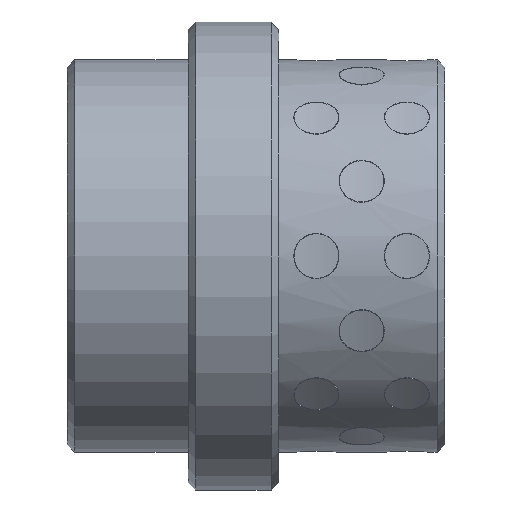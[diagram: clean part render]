
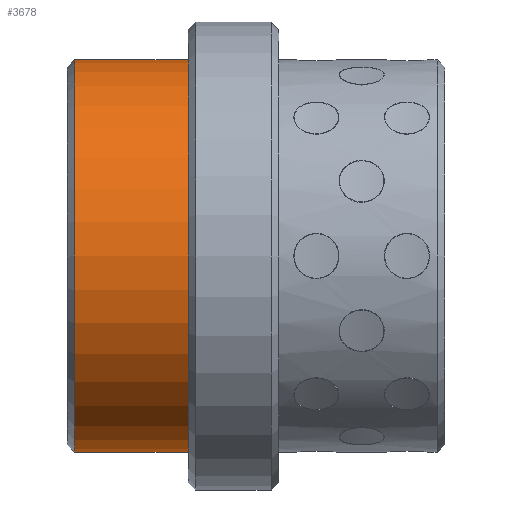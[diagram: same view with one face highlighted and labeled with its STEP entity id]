
A CAD part, front view. The second image highlights one B-rep face of the part: STEP entity #3678.
In plain terms, the highlighted cylindrical face has radius 13 mm (diameter 26 mm), a partial arc.
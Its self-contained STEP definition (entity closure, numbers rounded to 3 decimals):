
#2252=CARTESIAN_POINT('',(0.,0.,0.));
#2253=DIRECTION('',(1.,0.,0.));
#2254=DIRECTION('',(0.,0.,1.));
#2255=AXIS2_PLACEMENT_3D('',#2252,#2253,#2254);
#2272=CARTESIAN_POINT('',(-7.5,0.,0.));
#2273=DIRECTION('',(1.,0.,0.));
#2274=DIRECTION('',(0.,0.,1.));
#2275=AXIS2_PLACEMENT_3D('',#2272,#2273,#2274);
#2290=DIRECTION('',(1.,0.,0.));
#2291=VECTOR('',#2290,7.5);
#2292=CARTESIAN_POINT('',(-7.5,0.,
-13.));
#2293=LINE('',#2292,#2291);
#2294=DIRECTION('',(1.,0.,0.));
#2295=VECTOR('',#2294,7.5);
#2296=CARTESIAN_POINT('',(-7.5,0.,
13.));
#2297=LINE('',#2296,#2295);
#2494=CARTESIAN_POINT('',(0.,0.,13.));
#2495=CARTESIAN_POINT('',(0.,0.,-13.));
#2496=VERTEX_POINT('',#2494);
#2497=VERTEX_POINT('',#2495);
#2502=CARTESIAN_POINT('',(-7.5,0.,13.));
#2503=CARTESIAN_POINT('',(-7.5,0.,-13.));
#2504=VERTEX_POINT('',#2502);
#2505=VERTEX_POINT('',#2503);
#3664=CARTESIAN_POINT('',(-9.25,0.,0.));
#3665=DIRECTION('',(1.,0.,0.));
#3666=DIRECTION('',(0.,0.,1.));
#3667=AXIS2_PLACEMENT_3D('',#3664,#3665,#3666);
#3668=CYLINDRICAL_SURFACE('',#3667,13.);
#3670=ORIENTED_EDGE('',*,*,#3669,.F.);
#3672=ORIENTED_EDGE('',*,*,#3671,.T.);
#3673=ORIENTED_EDGE('',*,*,#3657,.T.);
#3675=ORIENTED_EDGE('',*,*,#3674,.F.);
#3676=EDGE_LOOP('',(#3670,#3672,#3673,#3675));
#3677=FACE_OUTER_BOUND('',#3676,.F.);
#3678=ADVANCED_FACE('',(#3677),#3668,.T.);
#2256=CIRCLE('',#2255,13.);
#2276=CIRCLE('',#2275,13.);
#3657=EDGE_CURVE('',#2496,#2497,#2256,.T.);
#3669=EDGE_CURVE('',#2504,#2505,#2276,.T.);
#3671=EDGE_CURVE('',#2504,#2496,#2297,.T.);
#3674=EDGE_CURVE('',#2505,#2497,#2293,.T.);
